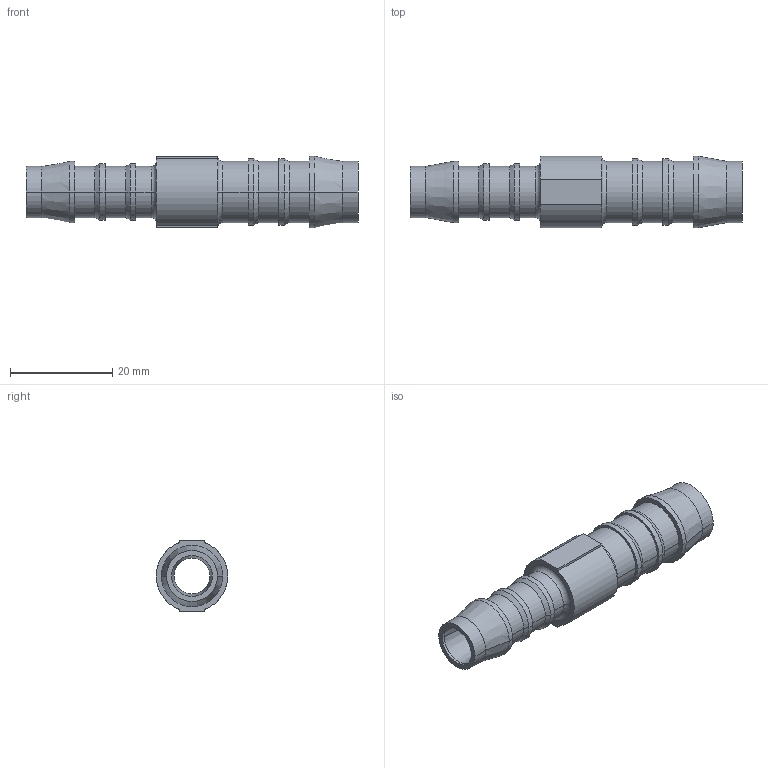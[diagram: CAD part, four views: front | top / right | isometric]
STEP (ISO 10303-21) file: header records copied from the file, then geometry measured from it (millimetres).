
FILE_DESCRIPTION (( 'STEP AP214' ), '1' );
FILE_NAME ('140400095FS00.STEP', '2024-05-07T13:23:02', ( '' ), ( '' ), 'SwSTEP 2.0', 'SolidWorks 2020', '' );
FILE_SCHEMA (( 'AUTOMOTIVE_DESIGN' ));
Length unit declared in the file: mil
Products named in the file (1): 140400095FS00
Bounding box: 65 x 14 x 14 mm (x, y, z)
Volume: 4380.2 mm3; surface area: 4338 mm2
Topology: 1 solids, 1 shells, 77 faces, 160 edges, 92 vertices
Faces by surface type: cylinder 36, plane 19, cone 18, torus 4
Entity records: 2072 total; most frequent: DIRECTION 402, CARTESIAN_POINT 330, ORIENTED_EDGE 320, AXIS2_PLACEMENT_3D 164, EDGE_CURVE 160, VERTEX_POINT 92, CIRCLE 86, EDGE_LOOP 86
